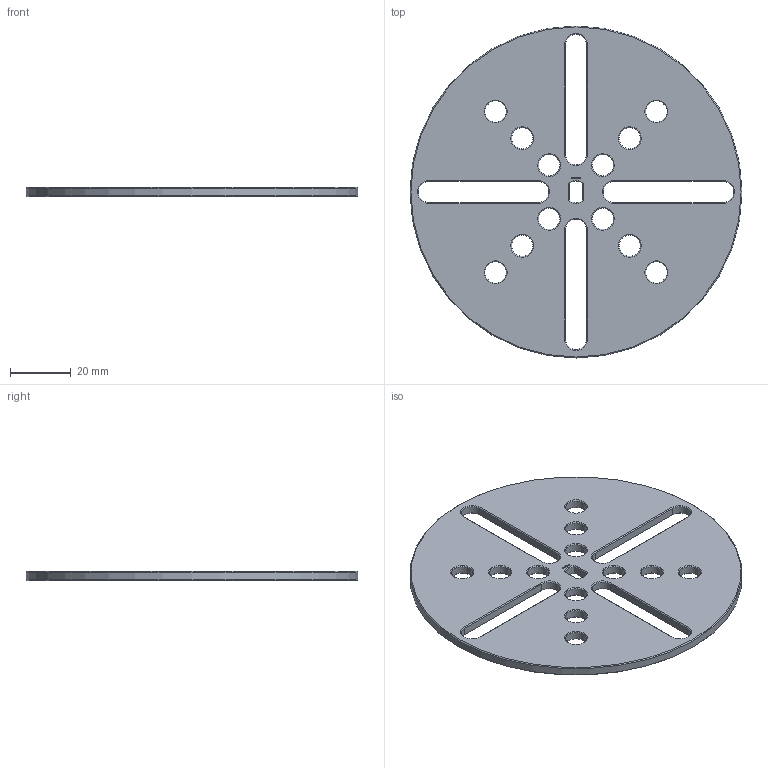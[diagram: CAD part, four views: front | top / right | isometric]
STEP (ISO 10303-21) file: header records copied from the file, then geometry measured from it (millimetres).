
FILE_DESCRIPTION(/* description */ (''),/* implementation_level */ '2;1');
FILE_NAME(/* name */ '/Users/paulokiefe/Desktop/STEMFIE/Fasteners/Washers/Fixed/Washer WSR FXD BU0.25x8.75 - SPN-WSR-0032 v1.step',/* time_stamp */ '2020-09-27T23:22:36+02:00',/* author */ (''),/* organization */ (''),/* preprocessor_version */ 'ST-DEVELOPER v18.1',/* originating_system */ 'Autodesk Translation Framework v9.3.0.1241',/* authorisation */ '');
FILE_SCHEMA (('AUTOMOTIVE_DESIGN { 1 0 10303 214 3 1 1 }'));
Length unit declared in the file: millimetre
Products named in the file (1): Washer WSR FXD BU0.25x8.75 - SPN-WSR-0032
Bounding box: 109.38 x 109.38 x 3.12 mm (x, y, z)
Volume: 24111.9 mm3; surface area: 18277.3 mm2
Topology: 1 solids, 1 shells, 345 faces, 927 edges, 596 vertices
Faces by surface type: plane 276, cone 46, cylinder 23
Full cylindrical faces by diameter (mm): 7 x12, 109.375 x1
Entity records: 10674 total; most frequent: CARTESIAN_POINT 1893, ORIENTED_EDGE 1854, DIRECTION 1703, EDGE_CURVE 927, LINE 827, VECTOR 827, VERTEX_POINT 596, AXIS2_PLACEMENT_3D 438
